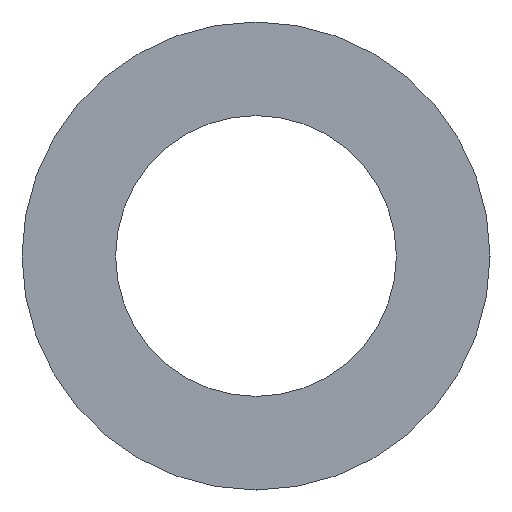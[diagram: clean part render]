
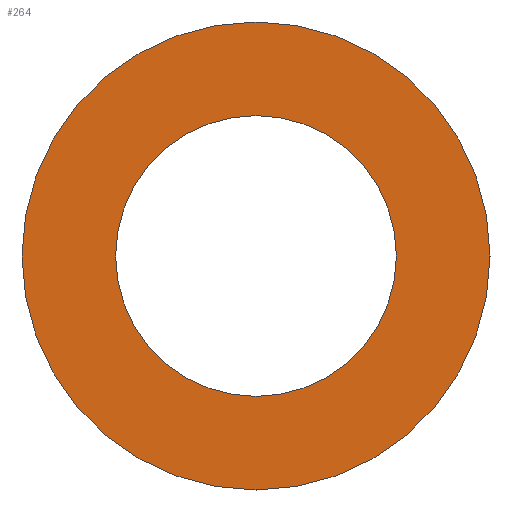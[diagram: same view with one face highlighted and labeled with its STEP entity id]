
A CAD part, front view. The second image highlights one B-rep face of the part: STEP entity #264.
In plain terms, the highlighted planar face has unit normal (0, -1, 0).
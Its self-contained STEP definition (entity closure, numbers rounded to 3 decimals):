
#99 = CARTESIAN_POINT ( 'NONE',  ( 0., -16.5, 22.5 ) ) ;
#121 = CARTESIAN_POINT ( 'NONE',  ( 0., -16.5, 0. ) ) ;
#264 = ADVANCED_FACE ( 'NONE', ( #750, #1887 ), #1059, .F. ) ;
#585 = DIRECTION ( 'NONE',  ( 0., 0., -1. ) ) ;
#621 = CIRCLE ( 'NONE', #2397, 37.5 ) ;
#674 = AXIS2_PLACEMENT_3D ( 'NONE', #121, #3166, #2661 ) ;
#750 = FACE_BOUND ( 'NONE', #961, .T. ) ;
#778 = CARTESIAN_POINT ( 'NONE',  ( 0., -16.5, 22.5 ) ) ;
#859 = CARTESIAN_POINT ( 'NONE',  ( 0., -16.5, -22.5 ) ) ;
#961 = EDGE_LOOP ( 'NONE', ( #3138, #2143 ) ) ;
#985 = EDGE_LOOP ( 'NONE', ( #1700, #2662 ) ) ;
#1045 = AXIS2_PLACEMENT_3D ( 'NONE', #3122, #1616, #585 ) ;
#1050 = DIRECTION ( 'NONE',  ( 0., -1., 0. ) ) ;
#1059 = PLANE ( 'NONE',  #2139 ) ;
#1097 = DIRECTION ( 'NONE',  ( 0., 0., -1. ) ) ;
#1350 = CARTESIAN_POINT ( 'NONE',  ( 0., -16.5, 0. ) ) ;
#1489 = VERTEX_POINT ( 'NONE', #99 ) ;
#1616 = DIRECTION ( 'NONE',  ( 0., -1., 0. ) ) ;
#1700 = ORIENTED_EDGE ( 'NONE', *, *, #2412, .T. ) ;
#1766 = CARTESIAN_POINT ( 'NONE',  ( 0., -16.5, -37.5 ) ) ;
#1811 = CIRCLE ( 'NONE', #1045, 37.5 ) ;
#1887 = FACE_OUTER_BOUND ( 'NONE', #985, .T. ) ;
#1950 = EDGE_CURVE ( 'NONE', #1489, #2574, #3150, .T. ) ;
#2139 = AXIS2_PLACEMENT_3D ( 'NONE', #778, #2307, #2272 ) ;
#2143 = ORIENTED_EDGE ( 'NONE', *, *, #1950, .F. ) ;
#2272 = DIRECTION ( 'NONE',  ( 0., 0., 1. ) ) ;
#2307 = DIRECTION ( 'NONE',  ( 0., 1., 0. ) ) ;
#2397 = AXIS2_PLACEMENT_3D ( 'NONE', #2804, #1050, #2550 ) ;
#2412 = EDGE_CURVE ( 'NONE', #2978, #2824, #621, .T. ) ;
#2461 = AXIS2_PLACEMENT_3D ( 'NONE', #1350, #2866, #1097 ) ;
#2469 = CARTESIAN_POINT ( 'NONE',  ( 0., -16.5, 37.5 ) ) ;
#2477 = CIRCLE ( 'NONE', #2461, 22.5 ) ;
#2537 = EDGE_CURVE ( 'NONE', #2824, #2978, #1811, .T. ) ;
#2544 = EDGE_CURVE ( 'NONE', #2574, #1489, #2477, .T. ) ;
#2550 = DIRECTION ( 'NONE',  ( 0., 0., -1. ) ) ;
#2574 = VERTEX_POINT ( 'NONE', #859 ) ;
#2661 = DIRECTION ( 'NONE',  ( 0., 0., -1. ) ) ;
#2662 = ORIENTED_EDGE ( 'NONE', *, *, #2537, .T. ) ;
#2804 = CARTESIAN_POINT ( 'NONE',  ( 0., -16.5, 0. ) ) ;
#2824 = VERTEX_POINT ( 'NONE', #2469 ) ;
#2866 = DIRECTION ( 'NONE',  ( 0., -1., 0. ) ) ;
#2978 = VERTEX_POINT ( 'NONE', #1766 ) ;
#3122 = CARTESIAN_POINT ( 'NONE',  ( 0., -16.5, 0. ) ) ;
#3138 = ORIENTED_EDGE ( 'NONE', *, *, #2544, .F. ) ;
#3150 = CIRCLE ( 'NONE', #674, 22.5 ) ;
#3166 = DIRECTION ( 'NONE',  ( 0., -1., 0. ) ) ;
